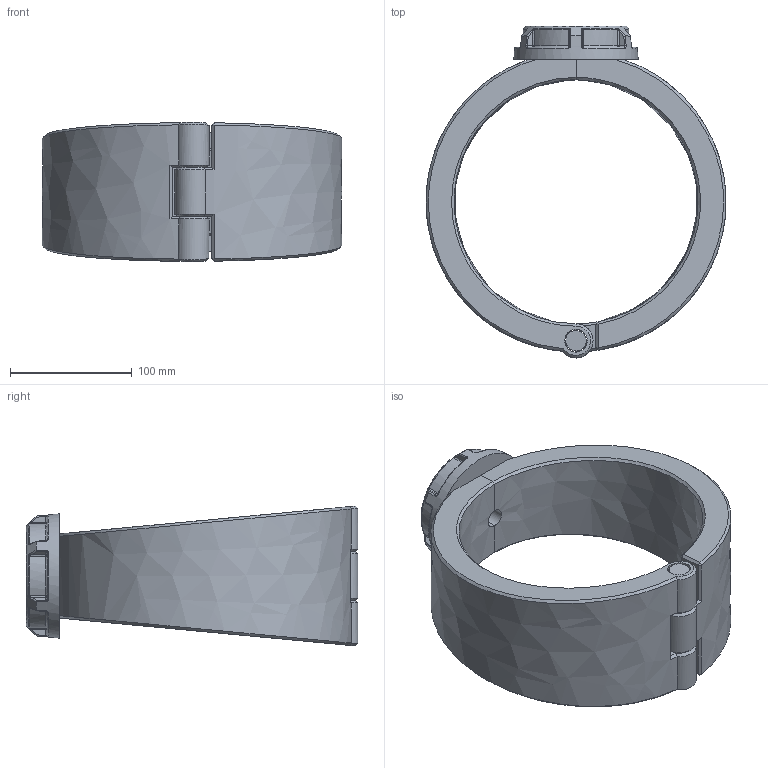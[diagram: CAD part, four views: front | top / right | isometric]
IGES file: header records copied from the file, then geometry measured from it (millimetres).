
Global section: file name: 163000200010; native system: Autodesk Inventor 2019; preprocessor: unknown; author: comp2; date: 20240828.103158; units: millimetre
Bounding box: 245.89 x 272 x 114.62 mm (x, y, z)
Volume: 1592012.3 mm3; surface area: 201669.1 mm2
Topology: 4 solids, 4 shells, 203 faces, 486 edges, 293 vertices
Faces by surface type: bspline 203
